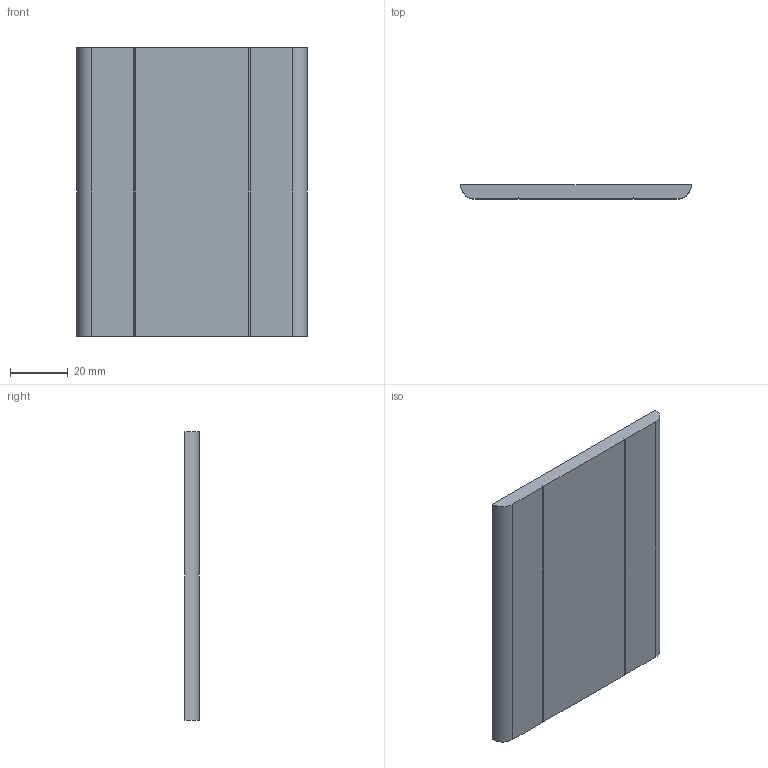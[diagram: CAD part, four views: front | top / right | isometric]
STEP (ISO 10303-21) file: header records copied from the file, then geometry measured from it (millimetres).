
FILE_DESCRIPTION (( 'STEP AP203' ), '1' );
FILE_NAME ('WFL0580P.STEP', '2024-02-19T12:10:19', ( '' ), ( '' ), 'SwSTEP 2.0', 'SolidWorks 2022', '' );
FILE_SCHEMA (( 'CONFIG_CONTROL_DESIGN' ));
Length unit declared in the file: millimetre
Products named in the file (1): WFL0580P
Bounding box: 80 x 5 x 100 mm (x, y, z)
Volume: 38898.1 mm3; surface area: 17464.2 mm2
Topology: 1 solids, 1 shells, 12 faces, 30 edges, 20 vertices
Faces by surface type: plane 10, cylinder 2
Entity records: 435 total; most frequent: CARTESIAN_POINT 63, ORIENTED_EDGE 60, DIRECTION 60, EDGE_CURVE 30, VECTOR 26, LINE 26, VERTEX_POINT 20, AXIS2_PLACEMENT_3D 17
